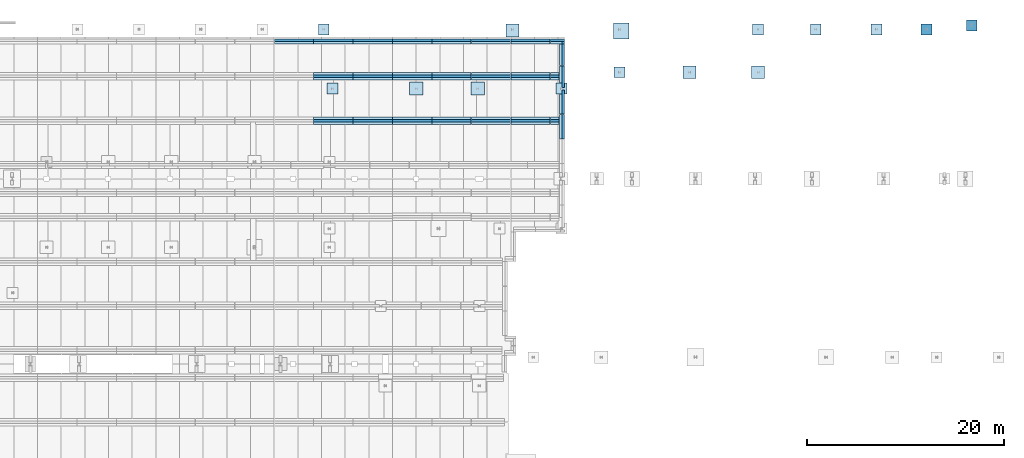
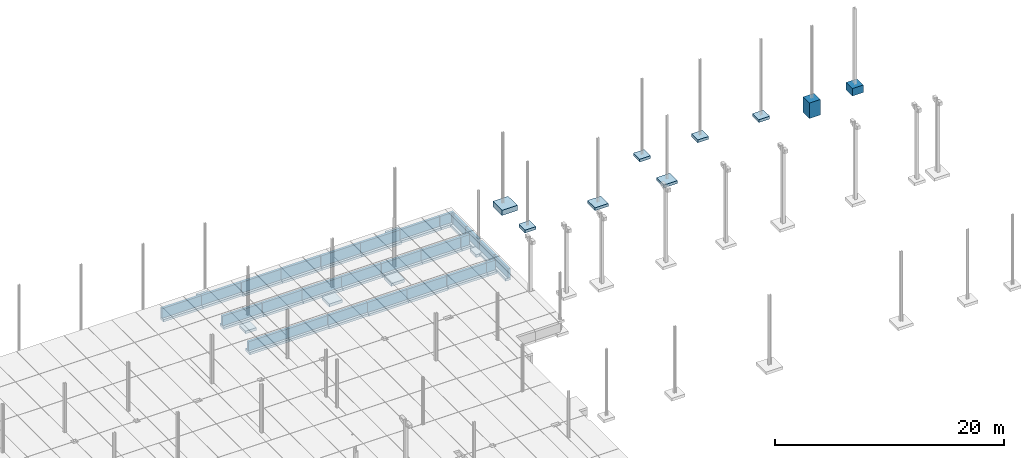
# One storey, part 14 of 59: 68 footings.
"""IFC2X3 building model written with IfcOpenShell, lengths in metres."""

from ifc_helpers import new_model, entity, si_unit, converted_unit, derived_unit, frame, frame_2d, origin, origin_with_axes, place, context, subcontext, project, spatial, rectangle, extrude, material, element, save


model = new_model("IFC2X3")

# Units and contexts
model_context = context("Model", 3, precision=1e-05, world=origin())
body_context = subcontext(model_context, "Body", "Model", "MODEL_VIEW")
ifc_project = project(units=[si_unit("LENGTHUNIT", "METRE"), si_unit("AREAUNIT", "SQUARE_METRE"), si_unit("VOLUMEUNIT", "CUBIC_METRE"), si_unit("MASSUNIT", "GRAM", prefix="KILO"), converted_unit("PLANEANGLEUNIT", "DEGREE", entity("IfcPlaneAngleMeasure", 0.0174532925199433), si_unit("PLANEANGLEUNIT", "RADIAN"), dimensions=[0, 0, 0, 0, 0, 0, 0]), derived_unit("THERMALTRANSMITTANCEUNIT", [(si_unit("POWERUNIT", "WATT"), 1), (si_unit("THERMODYNAMICTEMPERATUREUNIT", "KELVIN"), -1), (si_unit("LENGTHUNIT", "METRE"), -2)]), derived_unit("VOLUMETRICFLOWRATEUNIT", [(si_unit("LENGTHUNIT", "METRE"), 3), (converted_unit("TIMEUNIT", "hour", entity("IfcTimeMeasure", 3600.0), si_unit("TIMEUNIT", "SECOND"), dimensions=[0, 0, 1, 0, 0, 0, 0]), -1), (si_unit("LENGTHUNIT", "METRE"), -1)])], contexts=[model_context])

# Site, building, storey
site_placement = place(None, origin())
site = spatial("IfcSite", under=ifc_project, at=site_placement, Name="TWP_Speiseverteilzentrum SBW VZ II", CompositionType="ELEMENT")
building_placement = place(site_placement, origin())
building = spatial("IfcBuilding", under=site, at=building_placement, Name="Speiseverteilzentrum SBW VZ II", CompositionType="ELEMENT")
storey_placement = place(building_placement, frame((0.0, 0.0, 1.7307)))
storey = spatial("IfcBuildingStorey", under=building, at=storey_placement, Name="EG_Produktion_FFB", CompositionType="ELEMENT", Elevation=1.7307)

# Footings
ifc_material_1 = material(Name="Stahlbeton")
footing_1_placement = place(storey_placement, frame((87.0412901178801, 80.5494153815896, -2.25)))
element("IfcFooting", 1, at=footing_1_placement, inside=storey, material=ifc_material_1, Name="Stb.-Einzelfundament", ObjectType="COLUMN_FOUNDATION", PredefinedType="USERDEFINED", context=body_context, shape_type="SweptSolid", body=[
    extrude(rectangle(XDim=1.35, YDim=1.3, at=frame_2d((0.675, 0.65), x_axis=(1.0, 0.0))), origin_with_axes(), (0.0, 0.0, 1.0), 0.3),
])
ifc_material_2 = material(Name="Stahlbeton")
footing_2_placement = place(storey_placement, frame((80.0596643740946, 80.6494153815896, -2.25)))
element("IfcFooting", 2, at=footing_2_placement, inside=storey, material=ifc_material_2, Name="Stb.-Einzelfundament", ObjectType="COLUMN_FOUNDATION", PredefinedType="USERDEFINED", context=body_context, shape_type="SweptSolid", body=[
    extrude(rectangle(XDim=1.1, YDim=1.1, at=frame_2d((0.55, 0.55), x_axis=(1.0, 0.0))), origin_with_axes(), (0.0, 0.0, 1.0), 0.3),
])
ifc_material_3 = material(Name="Stahlbeton")
footing_3_placement = place(storey_placement, frame((74.1750000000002, 78.9980026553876, -1.81)))
element("IfcFooting", 3, at=footing_3_placement, inside=storey, material=ifc_material_3, Name="Stb.-Einzelfundament", ObjectType="COLUMN_FOUNDATION", PredefinedType="USERDEFINED", context=body_context, shape_type="SweptSolid", body=[
    extrude(rectangle(XDim=1.1, YDim=1.1, at=frame_2d((0.55, 0.55), x_axis=(1.0, 0.0))), origin_with_axes(), (0.0, 0.0, 1.0), 0.3),
])
ifc_material_4 = material(Name="Stahlbeton")
footing_4_placement = place(storey_placement, frame((111.225339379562, 85.0000000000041, -3.6)))
element("IfcFooting", 4, at=footing_4_placement, inside=storey, material=ifc_material_4, Name="Stb.-Einzelfundament", ObjectType="COLUMN_FOUNDATION", PredefinedType="USERDEFINED", context=body_context, shape_type="SweptSolid", body=[
    extrude(rectangle(XDim=1.1, YDim=1.1, at=frame_2d((0.55, 0.55), x_axis=(1.0, 0.0))), origin_with_axes(), (0.0, 0.0, 1.0), 1.65),
])
ifc_material_5 = material(Name="Stahlbeton")
footing_5_placement = place(storey_placement, frame((106.125339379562, 85.0000000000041, -2.25)))
element("IfcFooting", 5, at=footing_5_placement, inside=storey, material=ifc_material_5, Name="Stb.-Einzelfundament", ObjectType="COLUMN_FOUNDATION", PredefinedType="USERDEFINED", context=body_context, shape_type="SweptSolid", body=[
    extrude(rectangle(XDim=1.1, YDim=1.1, at=frame_2d((0.55, 0.55), x_axis=(1.0, 0.0))), origin_with_axes(), (0.0, 0.0, 1.0), 0.3),
])
ifc_material_6 = material(Name="Stahlbeton")
footing_6_placement = place(storey_placement, frame((99.9753393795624, 85.0000000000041, -2.25)))
element("IfcFooting", 6, at=footing_6_placement, inside=storey, material=ifc_material_6, Name="Stb.-Einzelfundament", ObjectType="COLUMN_FOUNDATION", PredefinedType="USERDEFINED", context=body_context, shape_type="SweptSolid", body=[
    extrude(rectangle(XDim=1.1, YDim=1.1, at=frame_2d((0.55, 0.55), x_axis=(1.0, 0.0))), origin_with_axes(), (0.0, 0.0, 1.0), 0.3),
])
ifc_material_7 = material(Name="Stahlbeton")
footing_7_placement = place(storey_placement, frame((94.1253393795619, 85.0000000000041, -2.25)))
element("IfcFooting", 7, at=footing_7_placement, inside=storey, material=ifc_material_7, Name="Stb.-Einzelfundament", ObjectType="COLUMN_FOUNDATION", PredefinedType="USERDEFINED", context=body_context, shape_type="SweptSolid", body=[
    extrude(rectangle(XDim=1.1, YDim=1.1, at=frame_2d((0.55, 0.55), x_axis=(1.0, 0.0))), origin_with_axes(), (0.0, 0.0, 1.0), 0.3),
])
ifc_material_8 = material(Name="Stahlbeton")
footing_8_placement = place(storey_placement, frame((59.325, 78.897433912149, -1.8)))
element("IfcFooting", 8, at=footing_8_placement, inside=storey, material=ifc_material_8, Name="Stb.-Einzelfundament", ObjectType="COLUMN_FOUNDATION", PredefinedType="USERDEFINED", context=body_context, shape_type="SweptSolid", body=[
    extrude(rectangle(XDim=1.35, YDim=1.3, at=frame_2d((0.675, 0.65), x_axis=(1.0, 0.0))), origin_with_axes(), (0.0, 0.0, 1.0), 0.3),
])
ifc_material_9 = material(Name="Stahlbeton")
footing_9_placement = place(storey_placement, frame((65.575, 78.897433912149, -1.8)))
element("IfcFooting", 9, at=footing_9_placement, inside=storey, material=ifc_material_9, Name="Stb.-Einzelfundament", ObjectType="COLUMN_FOUNDATION", PredefinedType="USERDEFINED", context=body_context, shape_type="SweptSolid", body=[
    extrude(rectangle(XDim=1.35, YDim=1.3, at=frame_2d((0.675, 0.65), x_axis=(1.0, 0.0))), origin_with_axes(), (0.0, 0.0, 1.0), 0.3),
])
ifc_material_10 = material(Name="Stahlbeton")
footing_10_placement = place(storey_placement, frame((50.9446040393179, 78.997433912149, -1.8)))
element("IfcFooting", 10, at=footing_10_placement, inside=storey, material=ifc_material_10, Name="Stb.-Einzelfundament", ObjectType="COLUMN_FOUNDATION", PredefinedType="USERDEFINED", context=body_context, shape_type="SweptSolid", body=[
    extrude(rectangle(XDim=1.1, YDim=1.1, at=frame_2d((0.55, 0.55), x_axis=(1.0, 0.0))), origin_with_axes(), (0.0, 0.0, 1.0), 0.3),
])
ifc_material_11 = material(Name="Stahlbeton")
footing_11_placement = place(storey_placement, frame((50.075, 85.0000000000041, -1.8)))
element("IfcFooting", 11, at=footing_11_placement, inside=storey, material=ifc_material_11, Name="Stb.-Einzelfundament", ObjectType="COLUMN_FOUNDATION", PredefinedType="USERDEFINED", context=body_context, shape_type="SweptSolid", body=[
    extrude(rectangle(XDim=1.1, YDim=1.1, at=frame_2d((0.55, 0.55), x_axis=(1.0, 0.0))), origin_with_axes(), (0.0, 0.0, 1.0), 0.3),
])
ifc_material_12 = material(Name="Stahlbeton")
footing_12_placement = place(storey_placement, frame((115.8, 85.4059999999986, -3.05)))
element("IfcFooting", 12, at=footing_12_placement, inside=storey, material=ifc_material_12, Name="Stb.-Einzelfundament", ObjectType="COLUMN_FOUNDATION", PredefinedType="USERDEFINED", context=body_context, shape_type="SweptSolid", body=[
    extrude(rectangle(XDim=1.1, YDim=1.1, at=frame_2d((0.55, 0.55), x_axis=(1.0, 0.0))), origin_with_axes(), (0.0, 0.0, 1.0), 0.8),
])
ifc_material_13 = material(Name="Stahlbetonfertigteil")
footing_13_placement = place(storey_placement, frame((65.5999999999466, 84.325000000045, -1.6)))
element("IfcFooting", 13, at=footing_13_placement, inside=storey, material=ifc_material_13, Name="Stahlbetonfertigteilfundament", PredefinedType="STRIP_FOOTING", context=body_context, shape_type="SweptSolid", body=[
    extrude(rectangle(XDim=0.25, YDim=1.13, at=frame_2d((0.125, 0.565), x_axis=(1.0, 0.0))), frame((0.0, 0.0, 0.0), z_axis=(1.0, 0.0, 0.0), x_axis=(0.0, 1.0, 0.0)), (0.0, 0.0, 1.0), 3.98),
])
ifc_material_14 = material(Name="Stahlbetonfertigteil")
footing_14_placement = place(storey_placement, frame((65.5999999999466, 84.075000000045, -1.85)))
element("IfcFooting", 14, at=footing_14_placement, inside=storey, material=ifc_material_14, Name="Stahlbetonfertigteilfundament", PredefinedType="STRIP_FOOTING", context=body_context, shape_type="SweptSolid", body=[
    extrude(rectangle(XDim=0.5, YDim=0.25, at=frame_2d((0.25, 0.125), x_axis=(1.0, 0.0))), frame((0.0, 0.0, 0.0), z_axis=(1.0, 0.0, 0.0), x_axis=(0.0, 1.0, 0.0)), (0.0, 0.0, 1.0), 3.98),
])
ifc_material_15 = material(Name="Stahlbetonfertigteil")
footing_15_placement = place(storey_placement, frame((61.5999999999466, 84.325000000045, -1.6)))
element("IfcFooting", 15, at=footing_15_placement, inside=storey, material=ifc_material_15, Name="Stahlbetonfertigteilfundament", PredefinedType="STRIP_FOOTING", context=body_context, shape_type="SweptSolid", body=[
    extrude(rectangle(XDim=0.25, YDim=1.13, at=frame_2d((0.125, 0.565), x_axis=(1.0, 0.0))), frame((0.0, 0.0, 0.0), z_axis=(1.0, 0.0, 0.0), x_axis=(0.0, 1.0, 0.0)), (0.0, 0.0, 1.0), 3.98),
])
ifc_material_16 = material(Name="Stahlbetonfertigteil")
footing_16_placement = place(storey_placement, frame((61.5999999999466, 84.075000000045, -1.85)))
element("IfcFooting", 16, at=footing_16_placement, inside=storey, material=ifc_material_16, Name="Stahlbetonfertigteilfundament", PredefinedType="STRIP_FOOTING", context=body_context, shape_type="SweptSolid", body=[
    extrude(rectangle(XDim=0.5, YDim=0.25, at=frame_2d((0.25, 0.125), x_axis=(1.0, 0.0))), frame((0.0, 0.0, 0.0), z_axis=(1.0, 0.0, 0.0), x_axis=(0.0, 1.0, 0.0)), (0.0, 0.0, 1.0), 3.98),
])
ifc_material_17 = material(Name="Stahlbetonfertigteil")
footing_17_placement = place(storey_placement, frame((57.5999999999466, 84.325000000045, -1.6)))
element("IfcFooting", 17, at=footing_17_placement, inside=storey, material=ifc_material_17, Name="Stahlbetonfertigteilfundament", PredefinedType="STRIP_FOOTING", context=body_context, shape_type="SweptSolid", body=[
    extrude(rectangle(XDim=0.25, YDim=1.13, at=frame_2d((0.125, 0.565), x_axis=(1.0, 0.0))), frame((0.0, 0.0, 0.0), z_axis=(1.0, 0.0, 0.0), x_axis=(0.0, 1.0, 0.0)), (0.0, 0.0, 1.0), 3.98),
])
ifc_material_18 = material(Name="Stahlbetonfertigteil")
footing_18_placement = place(storey_placement, frame((57.5999999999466, 84.075000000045, -1.85)))
element("IfcFooting", 18, at=footing_18_placement, inside=storey, material=ifc_material_18, Name="Stahlbetonfertigteilfundament", PredefinedType="STRIP_FOOTING", context=body_context, shape_type="SweptSolid", body=[
    extrude(rectangle(XDim=0.5, YDim=0.25, at=frame_2d((0.25, 0.125), x_axis=(1.0, 0.0))), frame((0.0, 0.0, 0.0), z_axis=(1.0, 0.0, 0.0), x_axis=(0.0, 1.0, 0.0)), (0.0, 0.0, 1.0), 3.98),
])
ifc_material_19 = material(Name="Stahlbetonfertigteil")
footing_19_placement = place(storey_placement, frame((53.5999999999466, 84.075000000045, -1.85)))
element("IfcFooting", 19, at=footing_19_placement, inside=storey, material=ifc_material_19, Name="Stahlbetonfertigteilfundament", PredefinedType="STRIP_FOOTING", context=body_context, shape_type="SweptSolid", body=[
    extrude(rectangle(XDim=0.5, YDim=0.25, at=frame_2d((0.25, 0.125), x_axis=(1.0, 0.0))), frame((0.0, 0.0, 0.0), z_axis=(1.0, 0.0, 0.0), x_axis=(0.0, 1.0, 0.0)), (0.0, 0.0, 1.0), 3.98),
])
ifc_material_20 = material(Name="Stahlbetonfertigteil")
footing_20_placement = place(storey_placement, frame((53.5999999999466, 84.325000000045, -1.6)))
element("IfcFooting", 20, at=footing_20_placement, inside=storey, material=ifc_material_20, Name="Stahlbetonfertigteilfundament", PredefinedType="STRIP_FOOTING", context=body_context, shape_type="SweptSolid", body=[
    extrude(rectangle(XDim=0.25, YDim=1.13, at=frame_2d((0.125, 0.565), x_axis=(1.0, 0.0))), frame((0.0, 0.0, 0.0), z_axis=(1.0, 0.0, 0.0), x_axis=(0.0, 1.0, 0.0)), (0.0, 0.0, 1.0), 3.98),
])
ifc_material_21 = material(Name="Stahlbetonfertigteil")
footing_21_placement = place(storey_placement, frame((45.5999999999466, 84.325000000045, -1.5)))
element("IfcFooting", 21, at=footing_21_placement, inside=storey, material=ifc_material_21, Name="Stahlbetonfertigteilfundament", PredefinedType="STRIP_FOOTING", context=body_context, shape_type="SweptSolid", body=[
    extrude(rectangle(XDim=0.25, YDim=1.03, at=frame_2d((0.125, 0.515), x_axis=(1.0, 0.0))), frame((0.0, 0.0, 0.0), z_axis=(1.0, 0.0, 0.0), x_axis=(0.0, 1.0, 0.0)), (0.0, 0.0, 1.0), 3.98),
])
ifc_material_22 = material(Name="Stahlbetonfertigteil")
footing_22_placement = place(storey_placement, frame((45.5999999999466, 84.075000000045, -1.75)))
element("IfcFooting", 22, at=footing_22_placement, inside=storey, material=ifc_material_22, Name="Stahlbetonfertigteilfundament", PredefinedType="STRIP_FOOTING", context=body_context, shape_type="SweptSolid", body=[
    extrude(rectangle(XDim=0.5, YDim=0.25, at=frame_2d((0.25, 0.125), x_axis=(1.0, 0.0))), frame((0.0, 0.0, 0.0), z_axis=(1.0, 0.0, 0.0), x_axis=(0.0, 1.0, 0.0)), (0.0, 0.0, 1.0), 3.98),
])
ifc_material_23 = material(Name="Stahlbetonfertigteil")
footing_23_placement = place(storey_placement, frame((49.5999999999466, 84.325000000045, -1.5)))
element("IfcFooting", 23, at=footing_23_placement, inside=storey, material=ifc_material_23, Name="Stahlbetonfertigteilfundament", PredefinedType="STRIP_FOOTING", context=body_context, shape_type="SweptSolid", body=[
    extrude(rectangle(XDim=0.25, YDim=1.03, at=frame_2d((0.125, 0.515), x_axis=(1.0, 0.0))), frame((0.0, 0.0, 0.0), z_axis=(1.0, 0.0, 0.0), x_axis=(0.0, 1.0, 0.0)), (0.0, 0.0, 1.0), 3.98),
])
ifc_material_24 = material(Name="Stahlbetonfertigteil")
footing_24_placement = place(storey_placement, frame((49.5999999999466, 84.075000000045, -1.75)))
element("IfcFooting", 24, at=footing_24_placement, inside=storey, material=ifc_material_24, Name="Stahlbetonfertigteilfundament", PredefinedType="STRIP_FOOTING", context=body_context, shape_type="SweptSolid", body=[
    extrude(rectangle(XDim=0.5, YDim=0.25, at=frame_2d((0.25, 0.125), x_axis=(1.0, 0.0))), frame((0.0, 0.0, 0.0), z_axis=(1.0, 0.0, 0.0), x_axis=(0.0, 1.0, 0.0)), (0.0, 0.0, 1.0), 3.98),
])
ifc_material_25 = material(Name="Stahlbetonfertigteil")
footing_25_placement = place(storey_placement, frame((69.5999999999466, 84.075000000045, -1.75)))
element("IfcFooting", 25, at=footing_25_placement, inside=storey, material=ifc_material_25, Name="Stahlbetonfertigteilfundament", PredefinedType="STRIP_FOOTING", context=body_context, shape_type="SweptSolid", body=[
    extrude(rectangle(XDim=0.5, YDim=0.25, at=frame_2d((0.25, 0.125), x_axis=(1.0, 0.0))), frame((0.0, 0.0, 0.0), z_axis=(1.0, 0.0, 0.0), x_axis=(0.0, 1.0, 0.0)), (0.0, 0.0, 1.0), 3.98),
])
ifc_material_26 = material(Name="Stahlbetonfertigteil")
footing_26_placement = place(storey_placement, frame((69.5999999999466, 84.325000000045, -1.5)))
element("IfcFooting", 26, at=footing_26_placement, inside=storey, material=ifc_material_26, Name="Stahlbetonfertigteilfundament", PredefinedType="STRIP_FOOTING", context=body_context, shape_type="SweptSolid", body=[
    extrude(rectangle(XDim=0.25, YDim=1.03, at=frame_2d((0.125, 0.515), x_axis=(1.0, 0.0))), frame((0.0, 0.0, 0.0), z_axis=(1.0, 0.0, 0.0), x_axis=(0.0, 1.0, 0.0)), (0.0, 0.0, 1.0), 3.98),
])
ifc_material_27 = material(Name="Stahlbetonfertigteil")
footing_27_placement = place(storey_placement, frame((74.7750000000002, 84.055000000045, -1.5), z_axis=(0.0, 0.0, 1.0), x_axis=(0.0, -1.0, 0.0)))
element("IfcFooting", 27, at=footing_27_placement, inside=storey, material=ifc_material_27, Name="Stahlbetonfertigteilfundament", PredefinedType="STRIP_FOOTING", context=body_context, shape_type="SweptSolid", body=[
    extrude(rectangle(XDim=0.25, YDim=1.03, at=frame_2d((0.125, 0.515), x_axis=(1.0, 0.0))), frame((0.0, 0.0, 0.0), z_axis=(1.0, 0.0, 0.0), x_axis=(0.0, 1.0, 0.0)), (0.0, 0.0, 1.0), 2.183783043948),
])
ifc_material_28 = material(Name="Stahlbetonfertigteil")
footing_28_placement = place(storey_placement, frame((75.0250000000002, 84.075000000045, -1.5), z_axis=(0.0, 0.0, 1.0), x_axis=(0.0, 1.0, 0.0)))
element("IfcFooting", 28, at=footing_28_placement, inside=storey, material=ifc_material_28, Name="Stahlbetonfertigteilfundament", PredefinedType="STRIP_FOOTING", context=body_context, shape_type="SweptSolid", body=[
    extrude(rectangle(XDim=0.25, YDim=1.03, at=frame_2d((0.125, 0.515), x_axis=(1.0, 0.0))), frame((0.0, 0.0, 0.0), z_axis=(1.0, 0.0, 0.0), x_axis=(0.0, 1.0, 0.0)), (0.0, 0.0, 1.0), 0.25),
])
ifc_material_29 = material(Name="Stahlbetonfertigteil")
footing_29_placement = place(storey_placement, frame((73.5999999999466, 84.325000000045, -1.5)))
element("IfcFooting", 29, at=footing_29_placement, inside=storey, material=ifc_material_29, Name="Stahlbetonfertigteilfundament", PredefinedType="STRIP_FOOTING", context=body_context, shape_type="SweptSolid", body=[
    extrude(rectangle(XDim=0.25, YDim=1.03, at=frame_2d((0.125, 0.515), x_axis=(1.0, 0.0))), frame((0.0, 0.0, 0.0), z_axis=(1.0, 0.0, 0.0), x_axis=(0.0, 1.0, 0.0)), (0.0, 0.0, 1.0), 1.42500000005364),
])
ifc_material_30 = material(Name="Stahlbetonfertigteil")
footing_30_placement = place(storey_placement, frame((73.5999999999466, 84.075000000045, -1.75)))
element("IfcFooting", 30, at=footing_30_placement, inside=storey, material=ifc_material_30, Name="Stahlbetonfertigteilfundament", PredefinedType="STRIP_FOOTING", context=body_context, shape_type="SweptSolid", body=[
    extrude(rectangle(XDim=0.5, YDim=0.25, at=frame_2d((0.25, 0.125), x_axis=(1.0, 0.0))), frame((0.0, 0.0, 0.0), z_axis=(1.0, 0.0, 0.0), x_axis=(0.0, 1.0, 0.0)), (0.0, 0.0, 1.0), 1.42500000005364),
])
ifc_material_31 = material(Name="Stahlbetonfertigteil")
footing_31_placement = place(storey_placement, frame((74.5250000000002, 84.055000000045, -1.75), z_axis=(0.0, 0.0, 1.0), x_axis=(0.0, -1.0, 0.0)))
element("IfcFooting", 31, at=footing_31_placement, inside=storey, material=ifc_material_31, Name="Stahlbetonfertigteilfundament", PredefinedType="STRIP_FOOTING", context=body_context, shape_type="SweptSolid", body=[
    extrude(rectangle(XDim=0.5, YDim=0.25, at=frame_2d((0.25, 0.125), x_axis=(1.0, 0.0))), frame((0.0, 0.0, 0.0), z_axis=(1.0, 0.0, 0.0), x_axis=(0.0, 1.0, 0.0)), (0.0, 0.0, 1.0), 2.183783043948),
])
ifc_material_32 = material(Name="Stahlbetonfertigteil")
footing_32_placement = place(storey_placement, frame((74.7750000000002, 76.927433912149, -1.45), z_axis=(0.0, 0.0, 1.0), x_axis=(0.0, -1.0, 0.0)))
element("IfcFooting", 32, at=footing_32_placement, inside=storey, material=ifc_material_32, Name="Stahlbetonfertigteilfundament", PredefinedType="STRIP_FOOTING", context=body_context, shape_type="SweptSolid", body=[
    extrude(rectangle(XDim=0.25, YDim=0.98, at=frame_2d((0.125, 0.49), x_axis=(1.0, 0.0))), frame((0.0, 0.0, 0.0), z_axis=(1.0, 0.0, 0.0), x_axis=(0.0, 1.0, 0.0)), (0.0, 0.0, 1.0), 2.48),
])
ifc_material_33 = material(Name="Stahlbetonfertigteil")
footing_33_placement = place(storey_placement, frame((74.5250000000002, 76.927433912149, -1.7), z_axis=(0.0, 0.0, 1.0), x_axis=(0.0, -1.0, 0.0)))
element("IfcFooting", 33, at=footing_33_placement, inside=storey, material=ifc_material_33, Name="Stahlbetonfertigteilfundament", PredefinedType="STRIP_FOOTING", context=body_context, shape_type="SweptSolid", body=[
    extrude(rectangle(XDim=0.5, YDim=0.25, at=frame_2d((0.25, 0.125), x_axis=(1.0, 0.0))), frame((0.0, 0.0, 0.0), z_axis=(1.0, 0.0, 0.0), x_axis=(0.0, 1.0, 0.0)), (0.0, 0.0, 1.0), 2.48),
])
ifc_material_34 = material(Name="Stahlbetonfertigteil")
footing_34_placement = place(storey_placement, frame((74.5250000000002, 81.851216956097, -1.75), z_axis=(0.0, 0.0, 1.0), x_axis=(0.0, -1.0, 0.0)))
element("IfcFooting", 34, at=footing_34_placement, inside=storey, material=ifc_material_34, Name="Stahlbetonfertigteilfundament", PredefinedType="STRIP_FOOTING", context=body_context, shape_type="SweptSolid", body=[
    extrude(rectangle(XDim=0.5, YDim=0.25, at=frame_2d((0.25, 0.125), x_axis=(1.0, 0.0))), frame((0.0, 0.0, 0.0), z_axis=(1.0, 0.0, 0.0), x_axis=(0.0, 1.0, 0.0)), (0.0, 0.0, 1.0), 1.73321430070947),
])
ifc_material_35 = material(Name="Stahlbetonfertigteil")
footing_35_placement = place(storey_placement, frame((74.5250000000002, 78.9780026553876, -1.7), z_axis=(0.0, 0.0, 1.0), x_axis=(0.0, -1.0, 0.0)))
element("IfcFooting", 35, at=footing_35_placement, inside=storey, material=ifc_material_35, Name="Stahlbetonfertigteilfundament", PredefinedType="STRIP_FOOTING", context=body_context, shape_type="SweptSolid", body=[
    extrude(rectangle(XDim=0.5, YDim=0.25, at=frame_2d((0.25, 0.125), x_axis=(1.0, 0.0))), frame((0.0, 0.0, 0.0), z_axis=(1.0, 0.0, 0.0), x_axis=(0.0, 1.0, 0.0)), (0.0, 0.0, 1.0), 2.03056874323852),
])
ifc_material_36 = material(Name="Stahlbetonfertigteil")
footing_36_placement = place(storey_placement, frame((74.7750000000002, 81.851216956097, -1.5), z_axis=(0.0, 0.0, 1.0), x_axis=(0.0, -1.0, 0.0)))
element("IfcFooting", 36, at=footing_36_placement, inside=storey, material=ifc_material_36, Name="Stahlbetonfertigteilfundament", PredefinedType="STRIP_FOOTING", context=body_context, shape_type="SweptSolid", body=[
    extrude(rectangle(XDim=0.25, YDim=1.03, at=frame_2d((0.125, 0.515), x_axis=(1.0, 0.0))), frame((0.0, 0.0, 0.0), z_axis=(1.0, 0.0, 0.0), x_axis=(0.0, 1.0, 0.0)), (0.0, 0.0, 1.0), 2.18378304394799),
])
ifc_material_37 = material(Name="Stahlbetonfertigteil")
footing_37_placement = place(storey_placement, frame((74.7750000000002, 79.427433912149, -1.45), z_axis=(0.0, 0.0, 1.0), x_axis=(0.0, -1.0, 0.0)))
element("IfcFooting", 37, at=footing_37_placement, inside=storey, material=ifc_material_37, Name="Stahlbetonfertigteilfundament", PredefinedType="STRIP_FOOTING", context=body_context, shape_type="SweptSolid", body=[
    extrude(rectangle(XDim=0.25, YDim=0.98, at=frame_2d((0.125, 0.49), x_axis=(1.0, 0.0))), frame((0.0, 0.0, 0.0), z_axis=(1.0, 0.0, 0.0), x_axis=(0.0, 1.0, 0.0)), (0.0, 0.0, 1.0), 2.48),
])
ifc_material_38 = material(Name="Stahlbetonfertigteil")
footing_38_placement = place(storey_placement, frame((69.5999999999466, 76.1751031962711, -1.5)))
element("IfcFooting", 38, at=footing_38_placement, inside=storey, material=ifc_material_38, Name="Stahlbetonfertigteilfundament", PredefinedType="STRIP_FOOTING", context=body_context, shape_type="SweptSolid", body=[
    extrude(rectangle(XDim=0.25, YDim=1.03, at=frame_2d((0.125, 0.515), x_axis=(1.0, 0.0))), frame((0.0, 0.0, 0.0), z_axis=(1.0, 0.0, 0.0), x_axis=(0.0, 1.0, 0.0)), (0.0, 0.0, 1.0), 3.98),
])
ifc_material_39 = material(Name="Stahlbetonfertigteil")
footing_39_placement = place(storey_placement, frame((69.5999999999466, 75.9251031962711, -1.75)))
element("IfcFooting", 39, at=footing_39_placement, inside=storey, material=ifc_material_39, Name="Stahlbetonfertigteilfundament", PredefinedType="STRIP_FOOTING", context=body_context, shape_type="SweptSolid", body=[
    extrude(rectangle(XDim=0.75, YDim=0.25, at=frame_2d((0.375, 0.125), x_axis=(1.0, 0.0))), frame((0.0, 0.0, 0.0), z_axis=(1.0, 0.0, 0.0), x_axis=(0.0, 1.0, 0.0)), (0.0, 0.0, 1.0), 3.98),
])
ifc_material_40 = material(Name="Stahlbetonfertigteil")
footing_40_placement = place(storey_placement, frame((65.5999999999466, 76.1751031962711, -1.55)))
element("IfcFooting", 40, at=footing_40_placement, inside=storey, material=ifc_material_40, Name="Stahlbetonfertigteilfundament", PredefinedType="STRIP_FOOTING", context=body_context, shape_type="SweptSolid", body=[
    extrude(rectangle(XDim=0.25, YDim=1.08, at=frame_2d((0.125, 0.54), x_axis=(1.0, 0.0))), frame((0.0, 0.0, 0.0), z_axis=(1.0, 0.0, 0.0), x_axis=(0.0, 1.0, 0.0)), (0.0, 0.0, 1.0), 3.98),
])
ifc_material_41 = material(Name="Stahlbetonfertigteil")
footing_41_placement = place(storey_placement, frame((61.5999999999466, 76.1751031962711, -1.55)))
element("IfcFooting", 41, at=footing_41_placement, inside=storey, material=ifc_material_41, Name="Stahlbetonfertigteilfundament", PredefinedType="STRIP_FOOTING", context=body_context, shape_type="SweptSolid", body=[
    extrude(rectangle(XDim=0.25, YDim=1.08, at=frame_2d((0.125, 0.54), x_axis=(1.0, 0.0))), frame((0.0, 0.0, 0.0), z_axis=(1.0, 0.0, 0.0), x_axis=(0.0, 1.0, 0.0)), (0.0, 0.0, 1.0), 3.98),
])
ifc_material_42 = material(Name="Stahlbetonfertigteil")
footing_42_placement = place(storey_placement, frame((65.5999999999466, 75.9251031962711, -1.8)))
element("IfcFooting", 42, at=footing_42_placement, inside=storey, material=ifc_material_42, Name="Stahlbetonfertigteilfundament", PredefinedType="STRIP_FOOTING", context=body_context, shape_type="SweptSolid", body=[
    extrude(rectangle(XDim=0.75, YDim=0.25, at=frame_2d((0.375, 0.125), x_axis=(1.0, 0.0))), frame((0.0, 0.0, 0.0), z_axis=(1.0, 0.0, 0.0), x_axis=(0.0, 1.0, 0.0)), (0.0, 0.0, 1.0), 3.98),
])
ifc_material_43 = material(Name="Stahlbetonfertigteil")
footing_43_placement = place(storey_placement, frame((61.5999999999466, 75.9251031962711, -1.8)))
element("IfcFooting", 43, at=footing_43_placement, inside=storey, material=ifc_material_43, Name="Stahlbetonfertigteilfundament", PredefinedType="STRIP_FOOTING", context=body_context, shape_type="SweptSolid", body=[
    extrude(rectangle(XDim=0.75, YDim=0.25, at=frame_2d((0.375, 0.125), x_axis=(1.0, 0.0))), frame((0.0, 0.0, 0.0), z_axis=(1.0, 0.0, 0.0), x_axis=(0.0, 1.0, 0.0)), (0.0, 0.0, 1.0), 3.98),
])
ifc_material_44 = material(Name="Stahlbetonfertigteil")
footing_44_placement = place(storey_placement, frame((57.5999999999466, 76.1751031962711, -1.5)))
element("IfcFooting", 44, at=footing_44_placement, inside=storey, material=ifc_material_44, Name="Stahlbetonfertigteilfundament", PredefinedType="STRIP_FOOTING", context=body_context, shape_type="SweptSolid", body=[
    extrude(rectangle(XDim=0.25, YDim=1.03, at=frame_2d((0.125, 0.515), x_axis=(1.0, 0.0))), frame((0.0, 0.0, 0.0), z_axis=(1.0, 0.0, 0.0), x_axis=(0.0, 1.0, 0.0)), (0.0, 0.0, 1.0), 3.98),
])
ifc_material_45 = material(Name="Stahlbetonfertigteil")
footing_45_placement = place(storey_placement, frame((57.5999999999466, 75.9251031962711, -1.75)))
element("IfcFooting", 45, at=footing_45_placement, inside=storey, material=ifc_material_45, Name="Stahlbetonfertigteilfundament", PredefinedType="STRIP_FOOTING", context=body_context, shape_type="SweptSolid", body=[
    extrude(rectangle(XDim=0.75, YDim=0.25, at=frame_2d((0.375, 0.125), x_axis=(1.0, 0.0))), frame((0.0, 0.0, 0.0), z_axis=(1.0, 0.0, 0.0), x_axis=(0.0, 1.0, 0.0)), (0.0, 0.0, 1.0), 3.98),
])
ifc_material_46 = material(Name="Stahlbetonfertigteil")
footing_46_placement = place(storey_placement, frame((53.5999999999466, 76.1751031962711, -1.45)))
element("IfcFooting", 46, at=footing_46_placement, inside=storey, material=ifc_material_46, Name="Stahlbetonfertigteilfundament", PredefinedType="STRIP_FOOTING", context=body_context, shape_type="SweptSolid", body=[
    extrude(rectangle(XDim=0.25, YDim=0.98, at=frame_2d((0.125, 0.49), x_axis=(1.0, 0.0))), frame((0.0, 0.0, 0.0), z_axis=(1.0, 0.0, 0.0), x_axis=(0.0, 1.0, 0.0)), (0.0, 0.0, 1.0), 3.98),
])
ifc_material_47 = material(Name="Stahlbetonfertigteil")
footing_47_placement = place(storey_placement, frame((53.5999999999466, 75.9251031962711, -1.7)))
element("IfcFooting", 47, at=footing_47_placement, inside=storey, material=ifc_material_47, Name="Stahlbetonfertigteilfundament", PredefinedType="STRIP_FOOTING", context=body_context, shape_type="SweptSolid", body=[
    extrude(rectangle(XDim=0.75, YDim=0.25, at=frame_2d((0.375, 0.125), x_axis=(1.0, 0.0))), frame((0.0, 0.0, 0.0), z_axis=(1.0, 0.0, 0.0), x_axis=(0.0, 1.0, 0.0)), (0.0, 0.0, 1.0), 3.98),
])
ifc_material_48 = material(Name="Stahlbetonfertigteil")
footing_48_placement = place(storey_placement, frame((49.5999999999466, 76.1751031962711, -1.45)))
element("IfcFooting", 48, at=footing_48_placement, inside=storey, material=ifc_material_48, Name="Stahlbetonfertigteilfundament", PredefinedType="STRIP_FOOTING", context=body_context, shape_type="SweptSolid", body=[
    extrude(rectangle(XDim=0.25, YDim=0.98, at=frame_2d((0.125, 0.49), x_axis=(1.0, 0.0))), frame((0.0, 0.0, 0.0), z_axis=(1.0, 0.0, 0.0), x_axis=(0.0, 1.0, 0.0)), (0.0, 0.0, 1.0), 3.98),
])
ifc_material_49 = material(Name="Stahlbetonfertigteil")
footing_49_placement = place(storey_placement, frame((49.5999999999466, 75.9251031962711, -1.7)))
element("IfcFooting", 49, at=footing_49_placement, inside=storey, material=ifc_material_49, Name="Stahlbetonfertigteilfundament", PredefinedType="STRIP_FOOTING", context=body_context, shape_type="SweptSolid", body=[
    extrude(rectangle(XDim=0.75, YDim=0.25, at=frame_2d((0.375, 0.125), x_axis=(1.0, 0.0))), frame((0.0, 0.0, 0.0), z_axis=(1.0, 0.0, 0.0), x_axis=(0.0, 1.0, 0.0)), (0.0, 0.0, 1.0), 3.98),
])
ifc_material_50 = material(Name="Stahlbetonfertigteil")
footing_50_placement = place(storey_placement, frame((49.5999999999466, 80.6751031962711, -1.5)))
element("IfcFooting", 50, at=footing_50_placement, inside=storey, material=ifc_material_50, Name="Stahlbetonfertigteilfundament", PredefinedType="STRIP_FOOTING", context=body_context, shape_type="SweptSolid", body=[
    extrude(rectangle(XDim=0.25, YDim=1.03, at=frame_2d((0.125, 0.515), x_axis=(1.0, 0.0))), frame((0.0, 0.0, 0.0), z_axis=(1.0, 0.0, 0.0), x_axis=(0.0, 1.0, 0.0)), (0.0, 0.0, 1.0), 3.98),
])
ifc_material_51 = material(Name="Stahlbetonfertigteil")
footing_51_placement = place(storey_placement, frame((49.5999999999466, 80.4251031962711, -1.75)))
element("IfcFooting", 51, at=footing_51_placement, inside=storey, material=ifc_material_51, Name="Stahlbetonfertigteilfundament", PredefinedType="STRIP_FOOTING", context=body_context, shape_type="SweptSolid", body=[
    extrude(rectangle(XDim=0.75, YDim=0.25, at=frame_2d((0.375, 0.125), x_axis=(1.0, 0.0))), frame((0.0, 0.0, 0.0), z_axis=(1.0, 0.0, 0.0), x_axis=(0.0, 1.0, 0.0)), (0.0, 0.0, 1.0), 3.98),
])
ifc_material_52 = material(Name="Stahlbetonfertigteil")
footing_52_placement = place(storey_placement, frame((65.5999999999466, 80.6751031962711, -1.55)))
element("IfcFooting", 52, at=footing_52_placement, inside=storey, material=ifc_material_52, Name="Stahlbetonfertigteilfundament", PredefinedType="STRIP_FOOTING", context=body_context, shape_type="SweptSolid", body=[
    extrude(rectangle(XDim=0.25, YDim=1.08, at=frame_2d((0.125, 0.54), x_axis=(1.0, 0.0))), frame((0.0, 0.0, 0.0), z_axis=(1.0, 0.0, 0.0), x_axis=(0.0, 1.0, 0.0)), (0.0, 0.0, 1.0), 3.98),
])
ifc_material_53 = material(Name="Stahlbetonfertigteil")
footing_53_placement = place(storey_placement, frame((69.5999999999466, 80.6751031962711, -1.55)))
element("IfcFooting", 53, at=footing_53_placement, inside=storey, material=ifc_material_53, Name="Stahlbetonfertigteilfundament", PredefinedType="STRIP_FOOTING", context=body_context, shape_type="SweptSolid", body=[
    extrude(rectangle(XDim=0.25, YDim=1.08, at=frame_2d((0.125, 0.54), x_axis=(1.0, 0.0))), frame((0.0, 0.0, 0.0), z_axis=(1.0, 0.0, 0.0), x_axis=(0.0, 1.0, 0.0)), (0.0, 0.0, 1.0), 3.98),
])
ifc_material_54 = material(Name="Stahlbetonfertigteil")
footing_54_placement = place(storey_placement, frame((65.5999999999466, 80.4251031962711, -1.8)))
element("IfcFooting", 54, at=footing_54_placement, inside=storey, material=ifc_material_54, Name="Stahlbetonfertigteilfundament", PredefinedType="STRIP_FOOTING", context=body_context, shape_type="SweptSolid", body=[
    extrude(rectangle(XDim=0.75, YDim=0.25, at=frame_2d((0.375, 0.125), x_axis=(1.0, 0.0))), frame((0.0, 0.0, 0.0), z_axis=(1.0, 0.0, 0.0), x_axis=(0.0, 1.0, 0.0)), (0.0, 0.0, 1.0), 3.98),
])
ifc_material_55 = material(Name="Stahlbetonfertigteil")
footing_55_placement = place(storey_placement, frame((69.5999999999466, 80.4251031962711, -1.8)))
element("IfcFooting", 55, at=footing_55_placement, inside=storey, material=ifc_material_55, Name="Stahlbetonfertigteilfundament", PredefinedType="STRIP_FOOTING", context=body_context, shape_type="SweptSolid", body=[
    extrude(rectangle(XDim=0.75, YDim=0.25, at=frame_2d((0.375, 0.125), x_axis=(1.0, 0.0))), frame((0.0, 0.0, 0.0), z_axis=(1.0, 0.0, 0.0), x_axis=(0.0, 1.0, 0.0)), (0.0, 0.0, 1.0), 3.98),
])
ifc_material_56 = material(Name="Stahlbetonfertigteil")
footing_56_placement = place(storey_placement, frame((53.5999999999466, 80.6751031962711, -1.55)))
element("IfcFooting", 56, at=footing_56_placement, inside=storey, material=ifc_material_56, Name="Stahlbetonfertigteilfundament", PredefinedType="STRIP_FOOTING", context=body_context, shape_type="SweptSolid", body=[
    extrude(rectangle(XDim=0.25, YDim=1.08, at=frame_2d((0.125, 0.54), x_axis=(1.0, 0.0))), frame((0.0, 0.0, 0.0), z_axis=(1.0, 0.0, 0.0), x_axis=(0.0, 1.0, 0.0)), (0.0, 0.0, 1.0), 3.98),
])
ifc_material_57 = material(Name="Stahlbetonfertigteil")
footing_57_placement = place(storey_placement, frame((57.5999999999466, 80.6751031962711, -1.55)))
element("IfcFooting", 57, at=footing_57_placement, inside=storey, material=ifc_material_57, Name="Stahlbetonfertigteilfundament", PredefinedType="STRIP_FOOTING", context=body_context, shape_type="SweptSolid", body=[
    extrude(rectangle(XDim=0.25, YDim=1.08, at=frame_2d((0.125, 0.54), x_axis=(1.0, 0.0))), frame((0.0, 0.0, 0.0), z_axis=(1.0, 0.0, 0.0), x_axis=(0.0, 1.0, 0.0)), (0.0, 0.0, 1.0), 3.98),
])
ifc_material_58 = material(Name="Stahlbetonfertigteil")
footing_58_placement = place(storey_placement, frame((61.5999999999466, 80.6751031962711, -1.55)))
element("IfcFooting", 58, at=footing_58_placement, inside=storey, material=ifc_material_58, Name="Stahlbetonfertigteilfundament", PredefinedType="STRIP_FOOTING", context=body_context, shape_type="SweptSolid", body=[
    extrude(rectangle(XDim=0.25, YDim=1.08, at=frame_2d((0.125, 0.54), x_axis=(1.0, 0.0))), frame((0.0, 0.0, 0.0), z_axis=(1.0, 0.0, 0.0), x_axis=(0.0, 1.0, 0.0)), (0.0, 0.0, 1.0), 3.98),
])
ifc_material_59 = material(Name="Stahlbetonfertigteil")
footing_59_placement = place(storey_placement, frame((61.5999999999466, 80.4251031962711, -1.8)))
element("IfcFooting", 59, at=footing_59_placement, inside=storey, material=ifc_material_59, Name="Stahlbetonfertigteilfundament", PredefinedType="STRIP_FOOTING", context=body_context, shape_type="SweptSolid", body=[
    extrude(rectangle(XDim=0.75, YDim=0.25, at=frame_2d((0.375, 0.125), x_axis=(1.0, 0.0))), frame((0.0, 0.0, 0.0), z_axis=(1.0, 0.0, 0.0), x_axis=(0.0, 1.0, 0.0)), (0.0, 0.0, 1.0), 3.98),
])
ifc_material_60 = material(Name="Stahlbetonfertigteil")
footing_60_placement = place(storey_placement, frame((57.5999999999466, 80.4251031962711, -1.8)))
element("IfcFooting", 60, at=footing_60_placement, inside=storey, material=ifc_material_60, Name="Stahlbetonfertigteilfundament", PredefinedType="STRIP_FOOTING", context=body_context, shape_type="SweptSolid", body=[
    extrude(rectangle(XDim=0.75, YDim=0.25, at=frame_2d((0.375, 0.125), x_axis=(1.0, 0.0))), frame((0.0, 0.0, 0.0), z_axis=(1.0, 0.0, 0.0), x_axis=(0.0, 1.0, 0.0)), (0.0, 0.0, 1.0), 3.98),
])
ifc_material_61 = material(Name="Stahlbetonfertigteil")
footing_61_placement = place(storey_placement, frame((53.5999999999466, 80.4251031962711, -1.8)))
element("IfcFooting", 61, at=footing_61_placement, inside=storey, material=ifc_material_61, Name="Stahlbetonfertigteilfundament", PredefinedType="STRIP_FOOTING", context=body_context, shape_type="SweptSolid", body=[
    extrude(rectangle(XDim=0.75, YDim=0.25, at=frame_2d((0.375, 0.125), x_axis=(1.0, 0.0))), frame((0.0, 0.0, 0.0), z_axis=(1.0, 0.0, 0.0), x_axis=(0.0, 1.0, 0.0)), (0.0, 0.0, 1.0), 3.98),
])
ifc_material_62 = material(Name="Stahlbetonfertigteil")
footing_62_placement = place(storey_placement, frame((73.5999999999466, 80.4251031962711, -1.8)))
element("IfcFooting", 62, at=footing_62_placement, inside=storey, material=ifc_material_62, Name="Stahlbetonfertigteilfundament", PredefinedType="STRIP_FOOTING", context=body_context, shape_type="SweptSolid", body=[
    extrude(rectangle(XDim=0.75, YDim=0.25, at=frame_2d((0.375, 0.125), x_axis=(1.0, 0.0))), frame((0.0, 0.0, 0.0), z_axis=(1.0, 0.0, 0.0), x_axis=(0.0, 1.0, 0.0)), (0.0, 0.0, 1.0), 0.900000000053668),
])
ifc_material_63 = material(Name="Stahlbetonfertigteil")
footing_63_placement = place(storey_placement, frame((73.5999999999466, 80.6751031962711, -1.55)))
element("IfcFooting", 63, at=footing_63_placement, inside=storey, material=ifc_material_63, Name="Stahlbetonfertigteilfundament", PredefinedType="STRIP_FOOTING", context=body_context, shape_type="SweptSolid", body=[
    extrude(rectangle(XDim=0.25, YDim=1.08, at=frame_2d((0.125, 0.54), x_axis=(1.0, 0.0))), frame((0.0, 0.0, 0.0), z_axis=(1.0, 0.0, 0.0), x_axis=(0.0, 1.0, 0.0)), (0.0, 0.0, 1.0), 0.900000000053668),
])
ifc_material_64 = material(Name="Stahlbetonfertigteil")
footing_64_placement = place(storey_placement, frame((73.5999999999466, 75.9251031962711, -1.75)))
element("IfcFooting", 64, at=footing_64_placement, inside=storey, material=ifc_material_64, Name="Stahlbetonfertigteilfundament", PredefinedType="STRIP_FOOTING", context=body_context, shape_type="SweptSolid", body=[
    extrude(rectangle(XDim=0.75, YDim=0.25, at=frame_2d((0.375, 0.125), x_axis=(1.0, 0.0))), frame((0.0, 0.0, 0.0), z_axis=(1.0, 0.0, 0.0), x_axis=(0.0, 1.0, 0.0)), (0.0, 0.0, 1.0), 0.900000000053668),
])
ifc_material_65 = material(Name="Stahlbetonfertigteil")
footing_65_placement = place(storey_placement, frame((73.5999999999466, 76.1751031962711, -1.5)))
element("IfcFooting", 65, at=footing_65_placement, inside=storey, material=ifc_material_65, Name="Stahlbetonfertigteilfundament", PredefinedType="STRIP_FOOTING", context=body_context, shape_type="SweptSolid", body=[
    extrude(rectangle(XDim=0.25, YDim=1.03, at=frame_2d((0.125, 0.515), x_axis=(1.0, 0.0))), frame((0.0, 0.0, 0.0), z_axis=(1.0, 0.0, 0.0), x_axis=(0.0, 1.0, 0.0)), (0.0, 0.0, 1.0), 0.900000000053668),
])
ifc_material_66 = material(Name="Stahlbeton")
footing_66_placement = place(storey_placement, frame((94.0045263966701, 80.5494153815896, -2.25)))
element("IfcFooting", 66, at=footing_66_placement, inside=storey, material=ifc_material_66, Name="Stb.-Einzelfundament", ObjectType="COLUMN_FOUNDATION", PredefinedType="USERDEFINED", context=body_context, shape_type="SweptSolid", body=[
    extrude(rectangle(XDim=1.35, YDim=1.3, at=frame_2d((0.675, 0.65), x_axis=(1.0, 0.0))), origin_with_axes(), (0.0, 0.0, 1.0), 0.3),
])
ifc_material_67 = material(Name="Stahlbeton")
footing_67_placement = place(storey_placement, frame((69.0857946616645, 84.8000000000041, -1.8)))
element("IfcFooting", 67, at=footing_67_placement, inside=storey, material=ifc_material_67, Name="Stb.-Einzelfundament", ObjectType="COLUMN_FOUNDATION", PredefinedType="USERDEFINED", context=body_context, shape_type="SweptSolid", body=[
    extrude(rectangle(XDim=1.35, YDim=1.3, at=frame_2d((0.675, 0.65), x_axis=(1.0, 0.0))), origin_with_axes(), (0.0, 0.0, 1.0), 0.3),
])
ifc_material_68 = material(Name="Stahlbeton")
footing_68_placement = place(storey_placement, frame((80.019051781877, 84.6000000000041, -2.77)))
element("IfcFooting", 68, at=footing_68_placement, inside=storey, material=ifc_material_68, Name="Stb.-Einzelfundament", ObjectType="COLUMN_FOUNDATION", PredefinedType="USERDEFINED", context=body_context, shape_type="SweptSolid", body=[
    extrude(rectangle(XDim=1.55, YDim=1.6, at=frame_2d((0.775, 0.8), x_axis=(1.0, 0.0))), origin_with_axes(), (0.0, 0.0, 1.0), 0.55),
])

save(model, "model.ifc")
